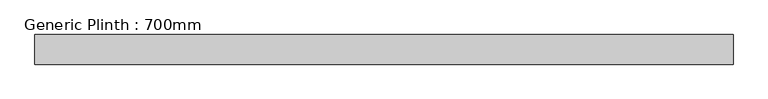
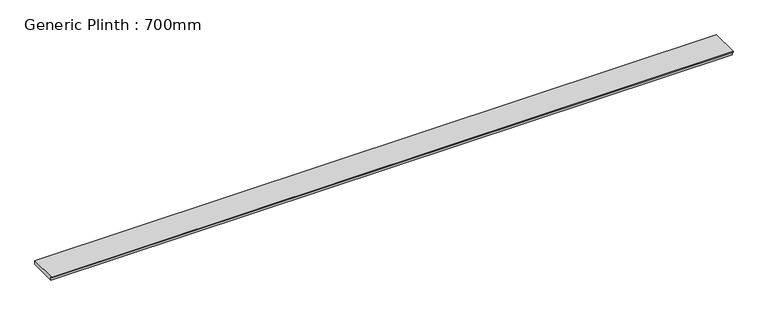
"""IFC4 building model written with IfcOpenShell, lengths in millimetres: furniture geometry, Generic Plinth : 700mm."""

from ifc_helpers import new_model, si_unit, frame, origin, place, context, project, spatial, polyline, outline, extrude, source, transform, mapped, element, save


def generic_plinth_700mm_6c846d5c(model_context):
    return source(origin(), model_context, "Body", "SweptSolid", [
        extrude(outline(polyline([(-700.0, 81.0), (-700.0, 100.0), (0.0, 100.0), (0.0, 0.0), (-665.0, 0.0), (-665.0, 81.0), (-700.0, 81.0)])), frame((-8231.2622951, 0.0, 0.0), z_axis=(1.0, 0.0, 0.0), x_axis=(0.0, 1.0, 0.0)), (0.0, 0.0, 1.0), 16500.0),
    ])


if __name__ == "__main__":
    model = new_model("IFC4")
    model_context = context("Model", 3, world=origin())
    ifc_project = project(units=[si_unit("LENGTHUNIT", "METRE", prefix="MILLI")], contexts=[model_context])
    site = spatial("IfcSite", under=ifc_project)
    building = spatial("IfcBuilding", under=site)
    placement = place(None, origin())
    generic_plinth_700mm_shape = generic_plinth_700mm_6c846d5c(model_context)
    element("IfcFurniture", 1, ObjectType="Generic Plinth : 700mm", at=placement, inside=building, context=model_context, shape_type="MappedRepresentation", body=[
        mapped(generic_plinth_700mm_shape, transform((0.0, 0.0, 0.0), x_axis=(1.0, 0.0, 0.0), y_axis=(0.0, 1.0, 0.0), z_axis=(0.0, 0.0, 1.0))),
    ])
    save(model, "model.ifc")
